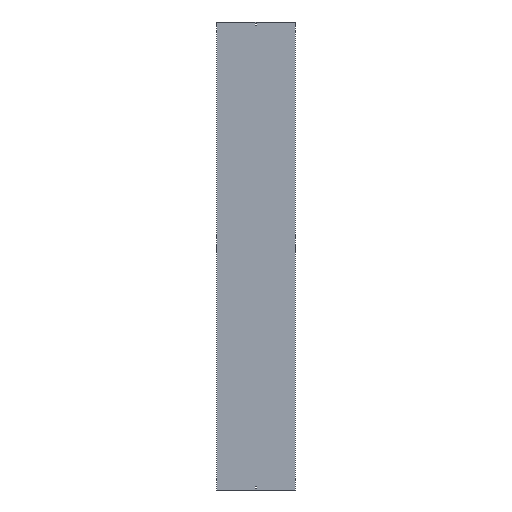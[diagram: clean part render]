
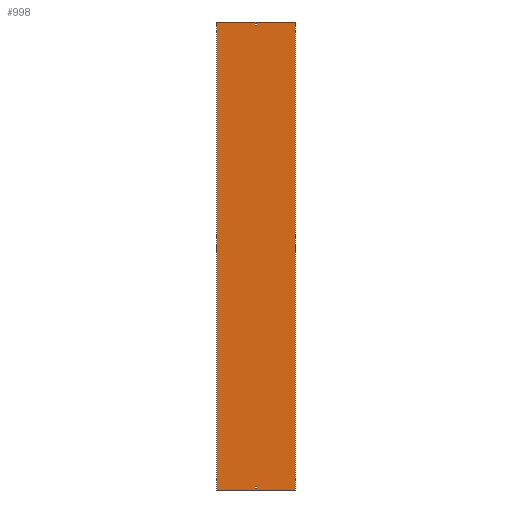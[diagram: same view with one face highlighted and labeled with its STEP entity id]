
A CAD part, front view. The second image highlights one B-rep face of the part: STEP entity #998.
In plain terms, the highlighted planar face has unit normal (0, -1, 0).
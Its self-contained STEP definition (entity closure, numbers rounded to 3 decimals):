
#24 = DIRECTION ( 'NONE',  ( 1., 0., 0. ) ) ;
#29 = EDGE_CURVE ( 'NONE', #2433, #1565, #144, .T. ) ;
#53 = CARTESIAN_POINT ( 'NONE',  ( 3.25, 0., -1479. ) ) ;
#136 = LINE ( 'NONE', #1658, #2349 ) ;
#142 = EDGE_LOOP ( 'NONE', ( #931, #1893, #555, #2245 ) ) ;
#144 = LINE ( 'NONE', #1423, #2206 ) ;
#171 = CARTESIAN_POINT ( 'NONE',  ( 3.25, 0., 1488. ) ) ;
#208 = DIRECTION ( 'NONE',  ( 1., 0., 0. ) ) ;
#220 = CARTESIAN_POINT ( 'NONE',  ( -3.25, 0., -1479. ) ) ;
#243 = ORIENTED_EDGE ( 'NONE', *, *, #381, .T. ) ;
#274 = CARTESIAN_POINT ( 'NONE',  ( 3.25, 0., -1488. ) ) ;
#333 = CARTESIAN_POINT ( 'NONE',  ( 3.25, 0., 1488. ) ) ;
#334 = VERTEX_POINT ( 'NONE', #2068 ) ;
#375 = VECTOR ( 'NONE', #1119, 1000. ) ;
#381 = EDGE_CURVE ( 'NONE', #1421, #2721, #1047, .T. ) ;
#382 = ORIENTED_EDGE ( 'NONE', *, *, #2082, .F. ) ;
#399 = CARTESIAN_POINT ( 'NONE',  ( -252., 0., 1500. ) ) ;
#420 = CARTESIAN_POINT ( 'NONE',  ( -252., 0., -1500. ) ) ;
#435 = CARTESIAN_POINT ( 'NONE',  ( 252., 0., 1500. ) ) ;
#456 = VECTOR ( 'NONE', #2273, 1000. ) ;
#511 = ORIENTED_EDGE ( 'NONE', *, *, #674, .F. ) ;
#514 = CARTESIAN_POINT ( 'NONE',  ( 3.25, 0., 1479. ) ) ;
#532 = LINE ( 'NONE', #1194, #456 ) ;
#555 = ORIENTED_EDGE ( 'NONE', *, *, #1572, .F. ) ;
#558 = CARTESIAN_POINT ( 'NONE',  ( -252., 0., 1500. ) ) ;
#562 = ORIENTED_EDGE ( 'NONE', *, *, #2708, .F. ) ;
#571 = DIRECTION ( 'NONE',  ( 0., 0., 1. ) ) ;
#674 = EDGE_CURVE ( 'NONE', #1077, #2527, #532, .T. ) ;
#718 = FACE_OUTER_BOUND ( 'NONE', #142, .T. ) ;
#745 = FACE_BOUND ( 'NONE', #1794, .T. ) ;
#756 = PLANE ( 'NONE',  #2609 ) ;
#761 = VERTEX_POINT ( 'NONE', #435 ) ;
#815 = VECTOR ( 'NONE', #24, 1000. ) ;
#858 = VERTEX_POINT ( 'NONE', #420 ) ;
#871 = CARTESIAN_POINT ( 'NONE',  ( -252., 0., -1500. ) ) ;
#931 = ORIENTED_EDGE ( 'NONE', *, *, #2641, .T. ) ;
#996 = DIRECTION ( 'NONE',  ( -1., 0., 0. ) ) ;
#998 = ADVANCED_FACE ( 'NONE', ( #718, #2426, #745 ), #756, .F. ) ;
#1011 = CARTESIAN_POINT ( 'NONE',  ( -3.25, 0., 1488. ) ) ;
#1012 = DIRECTION ( 'NONE',  ( 0., 1., 0. ) ) ;
#1024 = DIRECTION ( 'NONE',  ( 1., 0., 0. ) ) ;
#1047 = LINE ( 'NONE', #220, #815 ) ;
#1077 = VERTEX_POINT ( 'NONE', #333 ) ;
#1111 = ORIENTED_EDGE ( 'NONE', *, *, #2521, .T. ) ;
#1119 = DIRECTION ( 'NONE',  ( 0., 0., -1. ) ) ;
#1161 = LINE ( 'NONE', #2238, #2129 ) ;
#1177 = VECTOR ( 'NONE', #1847, 1000. ) ;
#1194 = CARTESIAN_POINT ( 'NONE',  ( -3.25, 0., 1488. ) ) ;
#1242 = LINE ( 'NONE', #2081, #1177 ) ;
#1319 = CARTESIAN_POINT ( 'NONE',  ( -252., 0., 1500. ) ) ;
#1324 = CARTESIAN_POINT ( 'NONE',  ( 3.25, 0., -1488. ) ) ;
#1366 = VECTOR ( 'NONE', #208, 1000. ) ;
#1376 = EDGE_LOOP ( 'NONE', ( #1907, #562, #511, #382 ) ) ;
#1377 = EDGE_CURVE ( 'NONE', #2721, #2728, #2159, .T. ) ;
#1421 = VERTEX_POINT ( 'NONE', #1563 ) ;
#1423 = CARTESIAN_POINT ( 'NONE',  ( -3.25, 0., 1479. ) ) ;
#1462 = EDGE_CURVE ( 'NONE', #334, #858, #2228, .T. ) ;
#1495 = LINE ( 'NONE', #1319, #1366 ) ;
#1550 = VECTOR ( 'NONE', #571, 1000. ) ;
#1563 = CARTESIAN_POINT ( 'NONE',  ( -3.25, 0., -1479. ) ) ;
#1565 = VERTEX_POINT ( 'NONE', #514 ) ;
#1572 = EDGE_CURVE ( 'NONE', #334, #761, #1495, .T. ) ;
#1574 = LINE ( 'NONE', #2199, #375 ) ;
#1658 = CARTESIAN_POINT ( 'NONE',  ( -3.25, 0., -1488. ) ) ;
#1794 = EDGE_LOOP ( 'NONE', ( #2624, #243, #2114, #1111 ) ) ;
#1840 = EDGE_CURVE ( 'NONE', #761, #2255, #1242, .T. ) ;
#1842 = LINE ( 'NONE', #171, #1550 ) ;
#1847 = DIRECTION ( 'NONE',  ( 0., 0., -1. ) ) ;
#1883 = LINE ( 'NONE', #871, #1910 ) ;
#1893 = ORIENTED_EDGE ( 'NONE', *, *, #1840, .F. ) ;
#1907 = ORIENTED_EDGE ( 'NONE', *, *, #29, .F. ) ;
#1910 = VECTOR ( 'NONE', #1024, 1000. ) ;
#2016 = DIRECTION ( 'NONE',  ( -1., 0., 0. ) ) ;
#2021 = DIRECTION ( 'NONE',  ( 1., 0., 0. ) ) ;
#2032 = VECTOR ( 'NONE', #2515, 1000. ) ;
#2068 = CARTESIAN_POINT ( 'NONE',  ( -252., 0., 1500. ) ) ;
#2081 = CARTESIAN_POINT ( 'NONE',  ( 252., 0., 1500. ) ) ;
#2082 = EDGE_CURVE ( 'NONE', #1565, #1077, #1842, .T. ) ;
#2102 = CARTESIAN_POINT ( 'NONE',  ( -3.25, 0., -1488. ) ) ;
#2114 = ORIENTED_EDGE ( 'NONE', *, *, #1377, .T. ) ;
#2129 = VECTOR ( 'NONE', #2016, 1000. ) ;
#2159 = LINE ( 'NONE', #1324, #2696 ) ;
#2199 = CARTESIAN_POINT ( 'NONE',  ( -3.25, 0., 1488. ) ) ;
#2206 = VECTOR ( 'NONE', #2021, 1000. ) ;
#2216 = DIRECTION ( 'NONE',  ( 0., 0., -1. ) ) ;
#2228 = LINE ( 'NONE', #399, #2032 ) ;
#2238 = CARTESIAN_POINT ( 'NONE',  ( -3.25, 0., -1488. ) ) ;
#2245 = ORIENTED_EDGE ( 'NONE', *, *, #1462, .T. ) ;
#2255 = VERTEX_POINT ( 'NONE', #2727 ) ;
#2273 = DIRECTION ( 'NONE',  ( -1., 0., 0. ) ) ;
#2349 = VECTOR ( 'NONE', #2669, 1000. ) ;
#2426 = FACE_BOUND ( 'NONE', #1376, .T. ) ;
#2433 = VERTEX_POINT ( 'NONE', #2439 ) ;
#2439 = CARTESIAN_POINT ( 'NONE',  ( -3.25, 0., 1479. ) ) ;
#2485 = EDGE_CURVE ( 'NONE', #2594, #1421, #136, .T. ) ;
#2515 = DIRECTION ( 'NONE',  ( 0., 0., -1. ) ) ;
#2521 = EDGE_CURVE ( 'NONE', #2728, #2594, #1161, .T. ) ;
#2527 = VERTEX_POINT ( 'NONE', #1011 ) ;
#2594 = VERTEX_POINT ( 'NONE', #2102 ) ;
#2609 = AXIS2_PLACEMENT_3D ( 'NONE', #558, #1012, #996 ) ;
#2624 = ORIENTED_EDGE ( 'NONE', *, *, #2485, .T. ) ;
#2641 = EDGE_CURVE ( 'NONE', #858, #2255, #1883, .T. ) ;
#2669 = DIRECTION ( 'NONE',  ( 0., 0., 1. ) ) ;
#2696 = VECTOR ( 'NONE', #2216, 1000. ) ;
#2708 = EDGE_CURVE ( 'NONE', #2527, #2433, #1574, .T. ) ;
#2721 = VERTEX_POINT ( 'NONE', #53 ) ;
#2727 = CARTESIAN_POINT ( 'NONE',  ( 252., 0., -1500. ) ) ;
#2728 = VERTEX_POINT ( 'NONE', #274 ) ;
